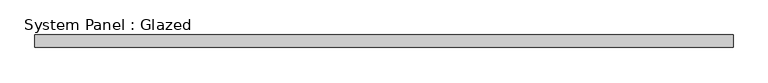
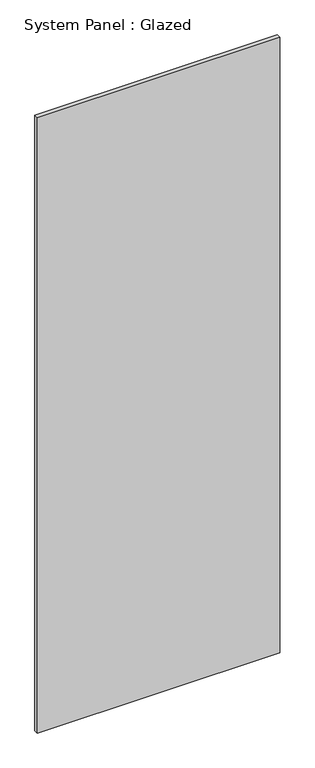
"""IFC4 building model written with IfcOpenShell, lengths in millimetres: plate geometry, System Panel : Glazed."""

from ifc_helpers import new_model, si_unit, origin, origin_with_axes, place, context, project, spatial, polyline, outline, extrude, source, transform, mapped, element, save


def system_panel_glazed_cdc57668(model_context):
    return source(origin(), model_context, "Body", "SweptSolid", [
        extrude(outline(polyline([(694.4400387, -49.5), (-694.4400387, -49.5), (-694.4400387, -24.5), (694.4400387, -24.5), (694.4400387, -49.5)])), origin_with_axes(), (0.0, 0.0, 1.0), 3725.0),
    ])


if __name__ == "__main__":
    model = new_model("IFC4")
    model_context = context("Model", 3, world=origin())
    ifc_project = project(units=[si_unit("LENGTHUNIT", "METRE", prefix="MILLI")], contexts=[model_context])
    site = spatial("IfcSite", under=ifc_project)
    building = spatial("IfcBuilding", under=site)
    placement = place(None, origin())
    system_panel_glazed_shape = system_panel_glazed_cdc57668(model_context)
    element("IfcPlate", 1, ObjectType="System Panel : Glazed", at=placement, inside=building, context=model_context, shape_type="MappedRepresentation", body=[
        mapped(system_panel_glazed_shape, transform((0.0, 0.0, 0.0), x_axis=(1.0, 0.0, 0.0), y_axis=(0.0, 1.0, 0.0), z_axis=(0.0, 0.0, 1.0))),
    ])
    save(model, "model.ifc")
